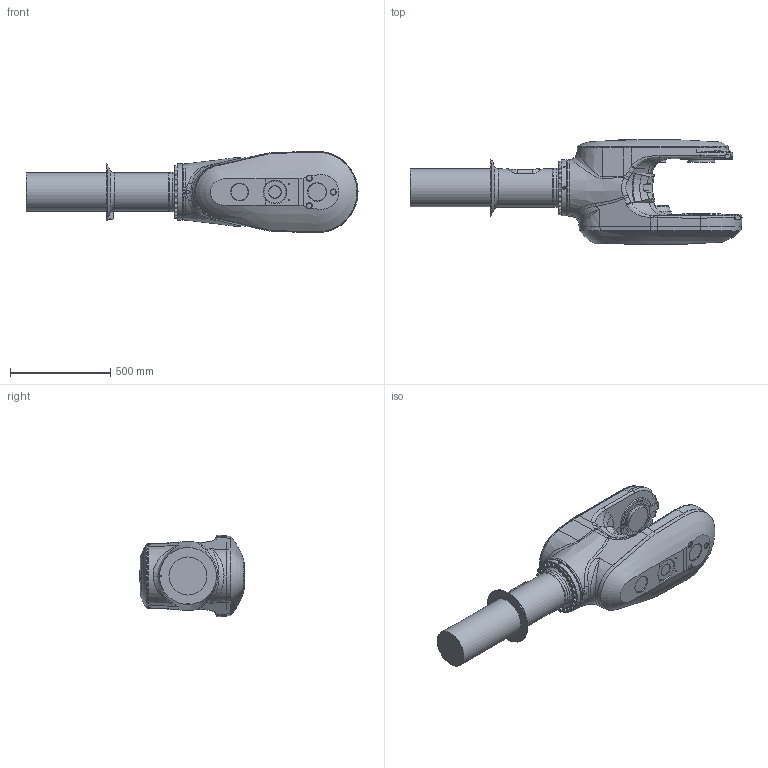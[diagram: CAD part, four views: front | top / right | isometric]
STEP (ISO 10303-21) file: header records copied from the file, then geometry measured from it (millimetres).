
FILE_DESCRIPTION (( 'STEP AP214' ), '1' );
FILE_NAME ('IRB7720_All-290_OC_00_LINK04_CAD.step', '2026-01-28T12:32:59', ( '' ), ( '' ), 'SwSTEP 2.0', 'SolidWorks 2024', '' );
FILE_SCHEMA (( 'AUTOMOTIVE_DESIGN' ));
Length unit declared in the file: millimetre
Products named in the file (1): IRB7720_All-290_OC_00_LINK04_CAD
Bounding box: 1658.54 x 520.5 x 406.39 mm (x, y, z)
Volume: 109334579.4 mm3; surface area: 2115463.7 mm2
Topology: 1 solids, 1 shells, 591 faces, 1484 edges, 962 vertices
Faces by surface type: plane 269, cylinder 118, cone 105, bspline 93, torus 6
Full cylindrical faces by diameter (mm): 4.8 x2, 6.8 x4, 8.3 x2, 10.5 x1, 12 x3, 17.9 x2, 18 x2, 18.27 x25, 24 x1, 27 x1, 28 x5, 90 x1, 134 x1, 140 x1, 190 x3, 192 x1, 195 x1, 280 x2
Entity records: 31748 total; most frequent: CARTESIAN_POINT 13119, ORIENTED_EDGE 2604, DIRECTION 2152, EDGE_CURVE 1302, VERTEX_POINT 892, AXIS2_PLACEMENT_3D 810, EDGE_LOOP 770, FACE_OUTER_BOUND 656
